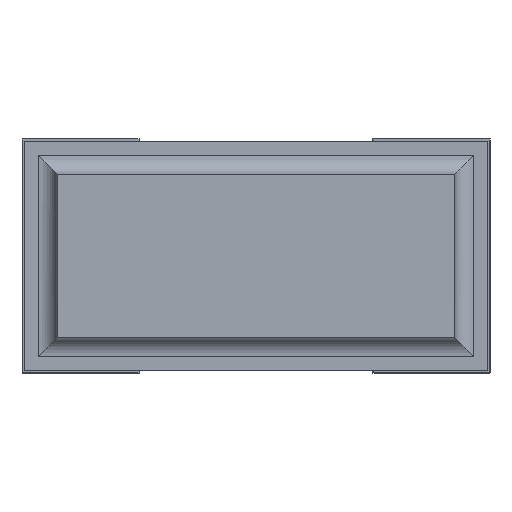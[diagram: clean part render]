
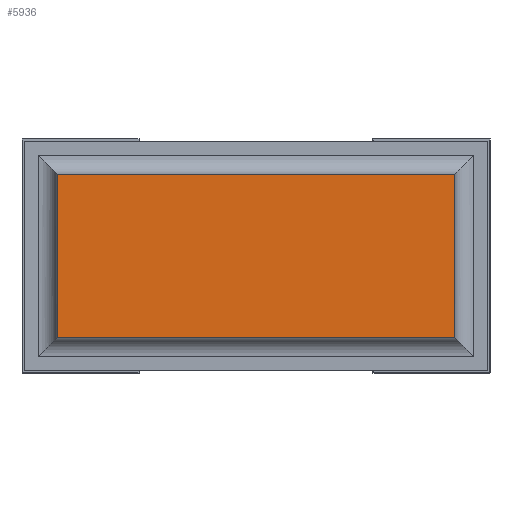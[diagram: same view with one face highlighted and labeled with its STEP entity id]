
A CAD part, front view. The second image highlights one B-rep face of the part: STEP entity #5936.
In plain terms, the highlighted planar face has unit normal (0, -1, 0).
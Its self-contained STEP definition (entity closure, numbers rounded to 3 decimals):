
#362=FACE_OUTER_BOUND('',#687,.T.);
#687=EDGE_LOOP('',(#4573,#4574,#4575,#4576));
#1191=LINE('',#8981,#1941);
#1195=LINE('',#8995,#1945);
#1204=LINE('',#9011,#1954);
#1205=LINE('',#9013,#1955);
#1941=VECTOR('',#7278,10.);
#1945=VECTOR('',#7290,10.);
#1954=VECTOR('',#7305,10.);
#1955=VECTOR('',#7308,10.);
#2627=VERTEX_POINT('',#8977);
#2628=VERTEX_POINT('',#8979);
#2633=VERTEX_POINT('',#8992);
#2634=VERTEX_POINT('',#8994);
#3317=EDGE_CURVE('',#2627,#2628,#1191,.T.);
#3323=EDGE_CURVE('',#2633,#2634,#1195,.T.);
#3332=EDGE_CURVE('',#2627,#2633,#1204,.T.);
#3333=EDGE_CURVE('',#2634,#2628,#1205,.T.);
#4573=ORIENTED_EDGE('',*,*,#3323,.F.);
#4574=ORIENTED_EDGE('',*,*,#3332,.F.);
#4575=ORIENTED_EDGE('',*,*,#3317,.T.);
#4576=ORIENTED_EDGE('',*,*,#3333,.F.);
#5659=PLANE('',#6349);
#5936=ADVANCED_FACE('',(#362),#5659,.T.);
#6349=AXIS2_PLACEMENT_3D('',#9012,#7306,#7307);
#7278=DIRECTION('',(0.,0.,-1.));
#7290=DIRECTION('',(0.,0.,-1.));
#7305=DIRECTION('',(1.,0.,0.));
#7306=DIRECTION('center_axis',(0.,-1.,0.));
#7307=DIRECTION('ref_axis',(0.,0.,-1.));
#7308=DIRECTION('',(-1.,0.,0.));
#8977=CARTESIAN_POINT('',(0.075,0.,0.425));
#8979=CARTESIAN_POINT('',(0.075,0.,0.075));
#8981=CARTESIAN_POINT('',(0.075,0.,0.425));
#8992=CARTESIAN_POINT('',(0.925,0.,0.425));
#8994=CARTESIAN_POINT('',(0.925,0.,0.075));
#8995=CARTESIAN_POINT('',(0.925,0.,0.425));
#9011=CARTESIAN_POINT('',(0.075,0.,0.425));
#9012=CARTESIAN_POINT('Origin',(0.926,0.,0.25));
#9013=CARTESIAN_POINT('',(0.925,0.,0.075));
